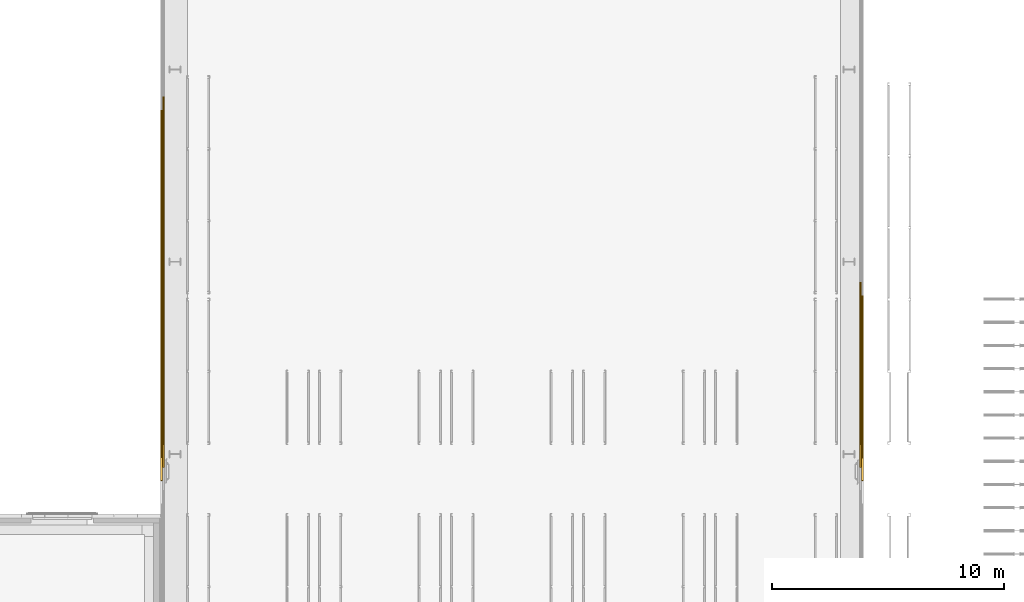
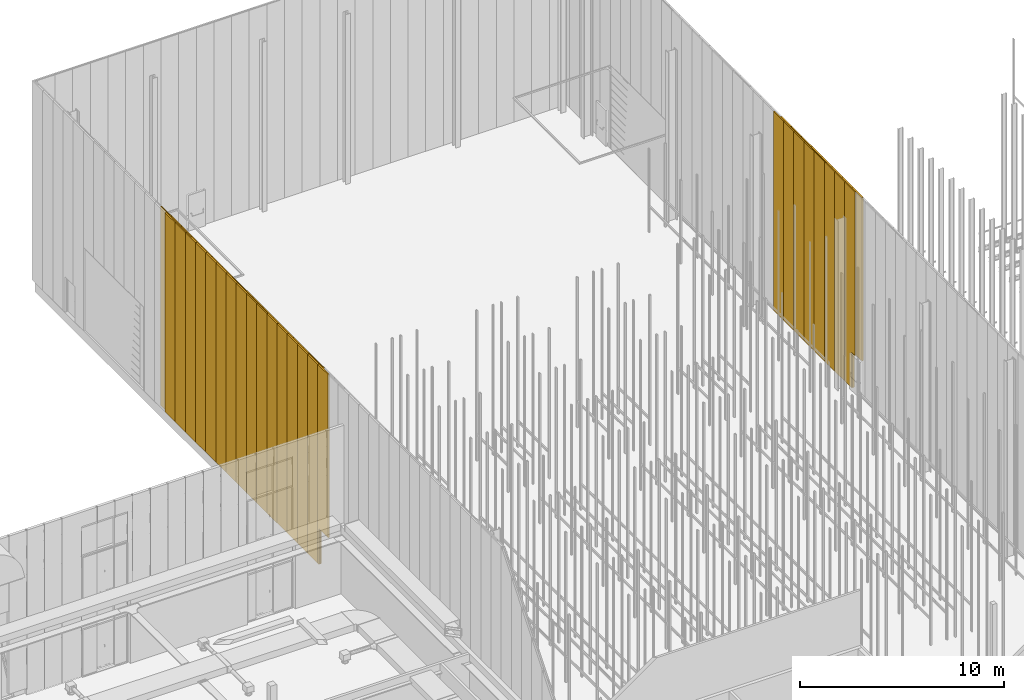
# One storey, part 245 of 302: 48 curtain walls, 5 openings, 4 elements without a shape of their own.
"""IFC2X3 building model written with IfcOpenShell, lengths in metres."""

from ifc_helpers import new_model, entity, si_unit, converted_unit, derived_unit, direction, frame, frame_2d, origin, origin_2d_with_axis, place, context, subcontext, project, spatial, rectangle, extrude, material, layer, layer_set, layer_usage, type_object, element, aggregate, save


model = new_model("IFC2X3")

# Units and contexts
model_context = context("Model", 3, precision=1e-05, world=origin(), true_north=direction((6.12303176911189e-17, 1.0)))
body_context = subcontext(model_context, "Body", "Model", "MODEL_VIEW")
ifc_project = project(units=[si_unit("LENGTHUNIT", "METRE"), si_unit("AREAUNIT", "SQUARE_METRE"), si_unit("VOLUMEUNIT", "CUBIC_METRE"), converted_unit("PLANEANGLEUNIT", "DEGREE", entity("IfcRatioMeasure", 0.0174532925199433), si_unit("PLANEANGLEUNIT", "RADIAN"), dimensions=[0, 0, 0, 0, 0, 0, 0]), si_unit("MASSUNIT", "GRAM", prefix="KILO"), derived_unit("MASSDENSITYUNIT", [(si_unit("MASSUNIT", "GRAM", prefix="KILO"), 1), (si_unit("LENGTHUNIT", "METRE"), -3)]), derived_unit("MOMENTOFINERTIAUNIT", [(si_unit("LENGTHUNIT", "METRE"), 4)]), si_unit("TIMEUNIT", "SECOND"), si_unit("FREQUENCYUNIT", "HERTZ"), si_unit("THERMODYNAMICTEMPERATUREUNIT", "DEGREE_CELSIUS"), derived_unit("THERMALTRANSMITTANCEUNIT", [(si_unit("MASSUNIT", "GRAM", prefix="KILO"), 1), (si_unit("THERMODYNAMICTEMPERATUREUNIT", "KELVIN"), -1), (si_unit("TIMEUNIT", "SECOND"), -3)]), derived_unit("VOLUMETRICFLOWRATEUNIT", [(si_unit("LENGTHUNIT", "METRE"), 3), (si_unit("TIMEUNIT", "SECOND"), -1)]), si_unit("ELECTRICCURRENTUNIT", "AMPERE"), si_unit("ELECTRICVOLTAGEUNIT", "VOLT"), si_unit("POWERUNIT", "WATT"), si_unit("FORCEUNIT", "NEWTON", prefix="KILO"), si_unit("ILLUMINANCEUNIT", "LUX"), si_unit("LUMINOUSFLUXUNIT", "LUMEN"), si_unit("LUMINOUSINTENSITYUNIT", "CANDELA"), derived_unit("USERDEFINED", [(si_unit("MASSUNIT", "GRAM", prefix="KILO"), -1), (si_unit("LENGTHUNIT", "METRE"), -2), (si_unit("TIMEUNIT", "SECOND"), 3), (si_unit("LUMINOUSFLUXUNIT", "LUMEN"), 1)]), derived_unit("LINEARVELOCITYUNIT", [(si_unit("LENGTHUNIT", "METRE"), 1), (si_unit("TIMEUNIT", "SECOND"), -1)]), si_unit("PRESSUREUNIT", "PASCAL"), derived_unit("USERDEFINED", [(si_unit("LENGTHUNIT", "METRE"), -2), (si_unit("MASSUNIT", "GRAM", prefix="KILO"), 1), (si_unit("TIMEUNIT", "SECOND"), -2)]), derived_unit("LINEARFORCEUNIT", [(si_unit("MASSUNIT", "GRAM", prefix="KILO"), 1), (si_unit("LENGTHUNIT", "METRE"), 1), (si_unit("TIMEUNIT", "SECOND"), -2), (si_unit("LENGTHUNIT", "METRE"), -1)]), derived_unit("PLANARFORCEUNIT", [(si_unit("MASSUNIT", "GRAM", prefix="KILO"), 1), (si_unit("LENGTHUNIT", "METRE"), 1), (si_unit("TIMEUNIT", "SECOND"), -2), (si_unit("LENGTHUNIT", "METRE"), -2)])], contexts=[model_context])

# Site, building, storey
site_placement = place(None, origin())
site = spatial("IfcSite", under=ifc_project, at=site_placement, Name="Default", CompositionType="ELEMENT")
building_placement = place(site_placement, origin())
building = spatial("IfcBuilding", under=site, at=building_placement, CompositionType="ELEMENT")
storey_placement = place(building_placement, frame((0.0, 0.0, -1.3)))
storey = spatial("IfcBuildingStorey", under=building, at=storey_placement, Name="00_EG", CompositionType="ELEMENT", Elevation=-1.3)

# Curtain walls, opening
curtain_wall_type_1 = type_object("IfcCurtainWallType", PredefinedType="NOTDEFINED")
curtain_wall_1_placement = place(storey_placement, frame((0.0, 0.0, 1.3)))
curtain_wall_1 = element("IfcCurtainWall", 1, at=curtain_wall_1_placement, inside=storey, type_object=curtain_wall_type_1)
ifc_material_1 = material(Name="Prepainted_Steel-ArcelorMittal_Construction_HAIRULTRA-35-CORAL-4309-[RAL_3000]")
ifc_layer_1 = layer(ifc_material_1, 0.01)
ifc_material_2 = material(Name="ArcelorMittal-MineralWool")
ifc_layer_2 = layer(ifc_material_2, 0.06)
ifc_layer_3 = layer(ifc_material_1, 0.01)
ifc_layer_set_1 = layer_set([ifc_layer_1, ifc_layer_2, ifc_layer_3], Name="Fassade:Sandwichpaneele Gebäude B 80mm")
ifc_layer_usage_1 = layer_usage(ifc_layer_set_1, "AXIS2", "NEGATIVE", 0.04)
curtain_wall_type_2 = type_object("IfcCurtainWallType", Name="Basiswand:Sandwichpaneele d = 8cm aussen", PredefinedType="NOTDEFINED", material=ifc_layer_set_1)
curtain_wall_2_placement = place(storey_placement, frame((-207.570111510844, 63.1680889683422, 1.27), z_axis=(0.0, 0.0, 1.0), x_axis=(0.0, -1.0, 0.0)))
curtain_wall_2 = element("IfcCurtainWall", 2, at=curtain_wall_2_placement, type_object=curtain_wall_type_2, material=ifc_layer_usage_1, Name="Basiswand:Sandwichpaneele d = 8cm aussen", ObjectType="Basiswand:Sandwichpaneele d = 8cm aussen", context=body_context, shape_type="SweptSolid", body=[
    extrude(rectangle(XDim=1.00000000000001, YDim=0.0799999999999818, at=frame_2d((0.500000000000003, 0.0), x_axis=(-1.0, 0.0))), origin(), (0.0, 0.0, 1.0), 11.9314),
])
ifc_layer_usage_2 = layer_usage(ifc_layer_set_1, "AXIS2", "NEGATIVE", 0.04)
curtain_wall_3_placement = place(storey_placement, frame((-207.570111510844, 62.1680889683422, 1.27), z_axis=(0.0, 0.0, 1.0), x_axis=(0.0, -1.0, 0.0)))
curtain_wall_3 = element("IfcCurtainWall", 3, at=curtain_wall_3_placement, type_object=curtain_wall_type_2, material=ifc_layer_usage_2, Name="Basiswand:Sandwichpaneele d = 8cm aussen", ObjectType="Basiswand:Sandwichpaneele d = 8cm aussen", context=body_context, shape_type="SweptSolid", body=[
    extrude(rectangle(XDim=0.999999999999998, YDim=0.0799999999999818, at=frame_2d((0.499999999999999, 0.0), x_axis=(-1.0, 0.0))), origin(), (0.0, 0.0, 1.0), 11.9314),
])
ifc_layer_usage_3 = layer_usage(ifc_layer_set_1, "AXIS2", "NEGATIVE", 0.04)
curtain_wall_4_placement = place(storey_placement, frame((-207.570111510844, 61.1680889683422, 1.27), z_axis=(0.0, 0.0, 1.0), x_axis=(0.0, -1.0, 0.0)))
curtain_wall_4 = element("IfcCurtainWall", 4, at=curtain_wall_4_placement, type_object=curtain_wall_type_2, material=ifc_layer_usage_3, Name="Basiswand:Sandwichpaneele d = 8cm aussen", ObjectType="Basiswand:Sandwichpaneele d = 8cm aussen", context=body_context, shape_type="SweptSolid", body=[
    extrude(rectangle(XDim=1.00000000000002, YDim=0.0799999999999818, at=frame_2d((0.500000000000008, 0.0), x_axis=(-1.0, 0.0))), origin(), (0.0, 0.0, 1.0), 11.9314),
])
ifc_layer_usage_4 = layer_usage(ifc_layer_set_1, "AXIS2", "NEGATIVE", 0.04)
curtain_wall_5_placement = place(storey_placement, frame((-207.570111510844, 60.1680889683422, 1.27), z_axis=(0.0, 0.0, 1.0), x_axis=(0.0, -1.0, 0.0)))
curtain_wall_5 = element("IfcCurtainWall", 5, at=curtain_wall_5_placement, type_object=curtain_wall_type_2, material=ifc_layer_usage_4, Name="Basiswand:Sandwichpaneele d = 8cm aussen", ObjectType="Basiswand:Sandwichpaneele d = 8cm aussen", context=body_context, shape_type="SweptSolid", body=[
    extrude(rectangle(XDim=0.999999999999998, YDim=0.0799999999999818, at=frame_2d((0.499999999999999, 0.0), x_axis=(-1.0, 0.0))), origin(), (0.0, 0.0, 1.0), 11.9314),
])
ifc_layer_usage_5 = layer_usage(ifc_layer_set_1, "AXIS2", "NEGATIVE", 0.04)
curtain_wall_6_placement = place(storey_placement, frame((-207.570111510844, 59.1680889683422, 1.27), z_axis=(0.0, 0.0, 1.0), x_axis=(0.0, -1.0, 0.0)))
curtain_wall_6 = element("IfcCurtainWall", 6, at=curtain_wall_6_placement, type_object=curtain_wall_type_2, material=ifc_layer_usage_5, Name="Basiswand:Sandwichpaneele d = 8cm aussen", ObjectType="Basiswand:Sandwichpaneele d = 8cm aussen", context=body_context, shape_type="SweptSolid", body=[
    extrude(rectangle(XDim=0.999999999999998, YDim=0.0799999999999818, at=frame_2d((0.499999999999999, 0.0), x_axis=(-1.0, 0.0))), origin(), (0.0, 0.0, 1.0), 11.9314),
])
ifc_layer_usage_6 = layer_usage(ifc_layer_set_1, "AXIS2", "NEGATIVE", 0.04)
curtain_wall_7_placement = place(storey_placement, frame((-207.570111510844, 58.1680889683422, 1.27), z_axis=(0.0, 0.0, 1.0), x_axis=(0.0, -1.0, 0.0)))
curtain_wall_7 = element("IfcCurtainWall", 7, at=curtain_wall_7_placement, type_object=curtain_wall_type_2, material=ifc_layer_usage_6, Name="Basiswand:Sandwichpaneele d = 8cm aussen", ObjectType="Basiswand:Sandwichpaneele d = 8cm aussen", context=body_context, shape_type="SweptSolid", body=[
    extrude(rectangle(XDim=1.00000000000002, YDim=0.0799999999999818, at=frame_2d((0.500000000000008, 0.0), x_axis=(-1.0, 0.0))), origin(), (0.0, 0.0, 1.0), 11.9314),
])
ifc_layer_usage_7 = layer_usage(ifc_layer_set_1, "AXIS2", "NEGATIVE", 0.04)
curtain_wall_8_placement = place(storey_placement, frame((-207.570111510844, 57.1680889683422, 1.27), z_axis=(0.0, 0.0, 1.0), x_axis=(0.0, -1.0, 0.0)))
curtain_wall_8 = element("IfcCurtainWall", 8, at=curtain_wall_8_placement, type_object=curtain_wall_type_2, material=ifc_layer_usage_7, Name="Basiswand:Sandwichpaneele d = 8cm aussen", ObjectType="Basiswand:Sandwichpaneele d = 8cm aussen", context=body_context, shape_type="SweptSolid", body=[
    extrude(rectangle(XDim=0.999999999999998, YDim=0.0799999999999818, at=frame_2d((0.499999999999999, 0.0), x_axis=(-1.0, 0.0))), origin(), (0.0, 0.0, 1.0), 11.9314),
])
ifc_layer_usage_8 = layer_usage(ifc_layer_set_1, "AXIS2", "NEGATIVE", 0.04)
curtain_wall_9_placement = place(storey_placement, frame((-207.570111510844, 56.1680889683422, 1.27), z_axis=(0.0, 0.0, 1.0), x_axis=(0.0, -1.0, 0.0)))
curtain_wall_9 = element("IfcCurtainWall", 9, at=curtain_wall_9_placement, type_object=curtain_wall_type_2, material=ifc_layer_usage_8, Name="Basiswand:Sandwichpaneele d = 8cm aussen", ObjectType="Basiswand:Sandwichpaneele d = 8cm aussen", context=body_context, shape_type="SweptSolid", body=[
    extrude(rectangle(XDim=0.999999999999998, YDim=0.0799999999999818, at=frame_2d((0.499999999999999, 0.0), x_axis=(-1.0, 0.0))), origin(), (0.0, 0.0, 1.0), 11.9314),
])
ifc_layer_usage_9 = layer_usage(ifc_layer_set_1, "AXIS2", "NEGATIVE", 0.04)
curtain_wall_10_placement = place(storey_placement, frame((-207.570111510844, 55.1680889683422, 1.27), z_axis=(0.0, 0.0, 1.0), x_axis=(0.0, -1.0, 0.0)))
curtain_wall_10 = element("IfcCurtainWall", 10, at=curtain_wall_10_placement, type_object=curtain_wall_type_2, material=ifc_layer_usage_9, Name="Basiswand:Sandwichpaneele d = 8cm aussen", ObjectType="Basiswand:Sandwichpaneele d = 8cm aussen", context=body_context, shape_type="SweptSolid", body=[
    extrude(rectangle(XDim=0.999999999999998, YDim=0.0799999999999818, at=frame_2d((0.499999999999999, 0.0), x_axis=(-1.0, 0.0))), origin(), (0.0, 0.0, 1.0), 11.9314),
])
ifc_layer_usage_10 = layer_usage(ifc_layer_set_1, "AXIS2", "NEGATIVE", 0.04)
curtain_wall_11_placement = place(storey_placement, frame((-207.570111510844, 54.1680889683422, 1.27), z_axis=(0.0, 0.0, 1.0), x_axis=(0.0, -1.0, 0.0)))
curtain_wall_11 = element("IfcCurtainWall", 11, at=curtain_wall_11_placement, type_object=curtain_wall_type_2, material=ifc_layer_usage_10, Name="Basiswand:Sandwichpaneele d = 8cm aussen", ObjectType="Basiswand:Sandwichpaneele d = 8cm aussen", context=body_context, shape_type="SweptSolid", body=[
    extrude(rectangle(XDim=0.999999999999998, YDim=0.0799999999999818, at=frame_2d((0.499999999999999, 0.0), x_axis=(-1.0, 0.0))), origin(), (0.0, 0.0, 1.0), 11.9314),
])
ifc_layer_usage_11 = layer_usage(ifc_layer_set_1, "AXIS2", "NEGATIVE", 0.04)
curtain_wall_12_placement = place(storey_placement, frame((-207.570111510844, 53.1680889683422, 1.27), z_axis=(0.0, 0.0, 1.0), x_axis=(0.0, -1.0, 0.0)))
curtain_wall_12 = element("IfcCurtainWall", 12, at=curtain_wall_12_placement, type_object=curtain_wall_type_2, material=ifc_layer_usage_11, Name="Basiswand:Sandwichpaneele d = 8cm aussen", ObjectType="Basiswand:Sandwichpaneele d = 8cm aussen", context=body_context, shape_type="SweptSolid", body=[
    extrude(rectangle(XDim=0.999999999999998, YDim=0.0799999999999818, at=frame_2d((0.499999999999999, 0.0), x_axis=(-1.0, 0.0))), origin(), (0.0, 0.0, 1.0), 11.9314),
])
ifc_layer_usage_12 = layer_usage(ifc_layer_set_1, "AXIS2", "NEGATIVE", 0.04)
curtain_wall_13_placement = place(storey_placement, frame((-207.570111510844, 52.1680889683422, 1.27), z_axis=(0.0, 0.0, 1.0), x_axis=(0.0, -1.0, 0.0)))
curtain_wall_13 = element("IfcCurtainWall", 13, at=curtain_wall_13_placement, type_object=curtain_wall_type_2, material=ifc_layer_usage_12, Name="Basiswand:Sandwichpaneele d = 8cm aussen", ObjectType="Basiswand:Sandwichpaneele d = 8cm aussen", context=body_context, shape_type="SweptSolid", body=[
    extrude(rectangle(XDim=0.999999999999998, YDim=0.0799999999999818, at=frame_2d((0.499999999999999, 0.0), x_axis=(-1.0, 0.0))), origin(), (0.0, 0.0, 1.0), 11.9314),
])
ifc_layer_usage_13 = layer_usage(ifc_layer_set_1, "AXIS2", "NEGATIVE", 0.04)
curtain_wall_14_placement = place(storey_placement, frame((-207.570111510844, 51.1680889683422, 1.27), z_axis=(0.0, 0.0, 1.0), x_axis=(0.0, -1.0, 0.0)))
curtain_wall_14 = element("IfcCurtainWall", 14, at=curtain_wall_14_placement, type_object=curtain_wall_type_2, material=ifc_layer_usage_13, Name="Basiswand:Sandwichpaneele d = 8cm aussen", ObjectType="Basiswand:Sandwichpaneele d = 8cm aussen", context=body_context, shape_type="SweptSolid", body=[
    extrude(rectangle(XDim=0.999999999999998, YDim=0.0799999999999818, at=frame_2d((0.499999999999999, 0.0), x_axis=(-1.0, 0.0))), origin(), (0.0, 0.0, 1.0), 11.9314),
])
ifc_layer_usage_14 = layer_usage(ifc_layer_set_1, "AXIS2", "NEGATIVE", 0.04)
curtain_wall_15_placement = place(storey_placement, frame((-207.570111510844, 50.1680889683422, 1.27), z_axis=(0.0, 0.0, 1.0), x_axis=(0.0, -1.0, 0.0)))
curtain_wall_15 = element("IfcCurtainWall", 15, at=curtain_wall_15_placement, type_object=curtain_wall_type_2, material=ifc_layer_usage_14, Name="Basiswand:Sandwichpaneele d = 8cm aussen", ObjectType="Basiswand:Sandwichpaneele d = 8cm aussen", context=body_context, shape_type="SweptSolid", body=[
    extrude(rectangle(XDim=0.999999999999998, YDim=0.0799999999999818, at=frame_2d((0.499999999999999, 0.0), x_axis=(-1.0, 0.0))), origin(), (0.0, 0.0, 1.0), 11.9314),
])
ifc_layer_usage_15 = layer_usage(ifc_layer_set_1, "AXIS2", "NEGATIVE", 0.04)
curtain_wall_16_placement = place(storey_placement, frame((-207.570111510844, 49.1680889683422, 1.27), z_axis=(0.0, 0.0, 1.0), x_axis=(0.0, -1.0, 0.0)))
curtain_wall_16 = element("IfcCurtainWall", 16, at=curtain_wall_16_placement, type_object=curtain_wall_type_2, material=ifc_layer_usage_15, Name="Basiswand:Sandwichpaneele d = 8cm aussen", ObjectType="Basiswand:Sandwichpaneele d = 8cm aussen", context=body_context, shape_type="SweptSolid", body=[
    extrude(rectangle(XDim=0.999999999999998, YDim=0.0799999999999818, at=frame_2d((0.499999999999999, 0.0), x_axis=(-1.0, 0.0))), origin(), (0.0, 0.0, 1.0), 11.9314),
])
ifc_layer_usage_16 = layer_usage(ifc_layer_set_1, "AXIS2", "NEGATIVE", 0.04)
curtain_wall_17_placement = place(storey_placement, frame((-207.570111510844, 48.1680889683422, 1.27), z_axis=(0.0, 0.0, 1.0), x_axis=(0.0, -1.0, 0.0)))
curtain_wall_17 = element("IfcCurtainWall", 17, at=curtain_wall_17_placement, type_object=curtain_wall_type_2, material=ifc_layer_usage_16, Name="Basiswand:Sandwichpaneele d = 8cm aussen", ObjectType="Basiswand:Sandwichpaneele d = 8cm aussen", context=body_context, shape_type="SweptSolid", body=[
    extrude(rectangle(XDim=0.999999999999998, YDim=0.0799999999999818, at=frame_2d((0.499999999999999, 0.0), x_axis=(-1.0, 0.0))), origin(), (0.0, 0.0, 1.0), 11.9314),
])
opening_1_placement = place(curtain_wall_17_placement, origin())
opening_1 = element("IfcOpeningElement", 18, at=opening_1_placement, cuts=curtain_wall_17, Name="Basiswand:Sandwichpaneele d = 8cm aussen", ObjectType="Opening", context=body_context, shape_type="SweptSolid", body=[
    extrude(rectangle(XDim=2.16999999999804, YDim=0.979999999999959, at=frame_2d((-5.55111512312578e-16, 2.60069743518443e-14), x_axis=(1.0, 0.0))), frame((0.589999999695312, -0.0400000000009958, 1.054999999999), z_axis=(0.0, 1.0, 0.0), x_axis=(0.0, 0.0, -1.0)), (0.0, 0.0, 1.0), 0.169999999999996),
])
aggregate(curtain_wall_1, [curtain_wall_2, curtain_wall_3, curtain_wall_4, curtain_wall_5, curtain_wall_6, curtain_wall_7, curtain_wall_8, curtain_wall_9, curtain_wall_10, curtain_wall_11, curtain_wall_12, curtain_wall_13, curtain_wall_14, curtain_wall_15, curtain_wall_16, curtain_wall_17, opening_1])

# Curtain walls, openings
curtain_wall_18_placement = place(storey_placement, frame((0.0, 0.0, 1.3)))
curtain_wall_18 = element("IfcCurtainWall", 19, at=curtain_wall_18_placement, inside=storey, type_object=curtain_wall_type_1)
ifc_layer_usage_17 = layer_usage(ifc_layer_set_1, "AXIS2", "POSITIVE", -0.04)
curtain_wall_19_placement = place(storey_placement, frame((-177.310111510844, 55.1680889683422, 1.27), z_axis=(0.0, 0.0, 1.0), x_axis=(0.0, -1.0, 0.0)))
curtain_wall_19 = element("IfcCurtainWall", 20, at=curtain_wall_19_placement, type_object=curtain_wall_type_2, material=ifc_layer_usage_17, Name="Basiswand:Sandwichpaneele d = 8cm aussen", ObjectType="Basiswand:Sandwichpaneele d = 8cm aussen", context=body_context, shape_type="SweptSolid", body=[
    extrude(rectangle(XDim=0.999999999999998, YDim=0.0799999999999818, at=frame_2d((0.499999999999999, 0.0), x_axis=(-1.0, 0.0))), origin(), (0.0, 0.0, 1.0), 11.9314),
])
ifc_layer_usage_18 = layer_usage(ifc_layer_set_1, "AXIS2", "POSITIVE", -0.04)
curtain_wall_20_placement = place(storey_placement, frame((-177.310111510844, 54.1680889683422, 1.27), z_axis=(0.0, 0.0, 1.0), x_axis=(0.0, -1.0, 0.0)))
curtain_wall_20 = element("IfcCurtainWall", 21, at=curtain_wall_20_placement, type_object=curtain_wall_type_2, material=ifc_layer_usage_18, Name="Basiswand:Sandwichpaneele d = 8cm aussen", ObjectType="Basiswand:Sandwichpaneele d = 8cm aussen", context=body_context, shape_type="SweptSolid", body=[
    extrude(rectangle(XDim=0.999999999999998, YDim=0.0799999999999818, at=frame_2d((0.499999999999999, 0.0), x_axis=(-1.0, 0.0))), origin(), (0.0, 0.0, 1.0), 11.9314),
])
ifc_layer_usage_19 = layer_usage(ifc_layer_set_1, "AXIS2", "POSITIVE", -0.04)
curtain_wall_21_placement = place(storey_placement, frame((-177.310111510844, 53.1680889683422, 1.27), z_axis=(0.0, 0.0, 1.0), x_axis=(0.0, -1.0, 0.0)))
curtain_wall_21 = element("IfcCurtainWall", 22, at=curtain_wall_21_placement, type_object=curtain_wall_type_2, material=ifc_layer_usage_19, Name="Basiswand:Sandwichpaneele d = 8cm aussen", ObjectType="Basiswand:Sandwichpaneele d = 8cm aussen", context=body_context, shape_type="SweptSolid", body=[
    extrude(rectangle(XDim=0.999999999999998, YDim=0.0799999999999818, at=frame_2d((0.499999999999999, 0.0), x_axis=(-1.0, 0.0))), origin(), (0.0, 0.0, 1.0), 11.9314),
])
ifc_layer_usage_20 = layer_usage(ifc_layer_set_1, "AXIS2", "POSITIVE", -0.04)
curtain_wall_22_placement = place(storey_placement, frame((-177.310111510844, 52.1680889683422, 1.27), z_axis=(0.0, 0.0, 1.0), x_axis=(0.0, -1.0, 0.0)))
curtain_wall_22 = element("IfcCurtainWall", 23, at=curtain_wall_22_placement, type_object=curtain_wall_type_2, material=ifc_layer_usage_20, Name="Basiswand:Sandwichpaneele d = 8cm aussen", ObjectType="Basiswand:Sandwichpaneele d = 8cm aussen", context=body_context, shape_type="SweptSolid", body=[
    extrude(rectangle(XDim=0.999999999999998, YDim=0.0799999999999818, at=frame_2d((0.499999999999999, 0.0), x_axis=(-1.0, 0.0))), origin(), (0.0, 0.0, 1.0), 11.9314),
])
ifc_layer_usage_21 = layer_usage(ifc_layer_set_1, "AXIS2", "POSITIVE", -0.04)
curtain_wall_23_placement = place(storey_placement, frame((-177.310111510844, 51.1680889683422, 1.27), z_axis=(0.0, 0.0, 1.0), x_axis=(0.0, -1.0, 0.0)))
curtain_wall_23 = element("IfcCurtainWall", 24, at=curtain_wall_23_placement, type_object=curtain_wall_type_2, material=ifc_layer_usage_21, Name="Basiswand:Sandwichpaneele d = 8cm aussen", ObjectType="Basiswand:Sandwichpaneele d = 8cm aussen", context=body_context, shape_type="SweptSolid", body=[
    extrude(rectangle(XDim=0.999999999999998, YDim=0.0799999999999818, at=frame_2d((0.499999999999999, 0.0), x_axis=(-1.0, 0.0))), origin(), (0.0, 0.0, 1.0), 11.9314),
])
ifc_layer_usage_22 = layer_usage(ifc_layer_set_1, "AXIS2", "POSITIVE", -0.04)
curtain_wall_24_placement = place(storey_placement, frame((-177.310111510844, 50.1680889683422, 1.27), z_axis=(0.0, 0.0, 1.0), x_axis=(0.0, -1.0, 0.0)))
curtain_wall_24 = element("IfcCurtainWall", 25, at=curtain_wall_24_placement, type_object=curtain_wall_type_2, material=ifc_layer_usage_22, Name="Basiswand:Sandwichpaneele d = 8cm aussen", ObjectType="Basiswand:Sandwichpaneele d = 8cm aussen", context=body_context, shape_type="SweptSolid", body=[
    extrude(rectangle(XDim=0.999999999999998, YDim=0.0799999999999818, at=frame_2d((0.499999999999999, 0.0), x_axis=(-1.0, 0.0))), origin(), (0.0, 0.0, 1.0), 11.9314),
])
ifc_layer_usage_23 = layer_usage(ifc_layer_set_1, "AXIS2", "POSITIVE", -0.04)
curtain_wall_25_placement = place(storey_placement, frame((-177.310111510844, 49.1680889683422, 1.27), z_axis=(0.0, 0.0, 1.0), x_axis=(0.0, -1.0, 0.0)))
curtain_wall_25 = element("IfcCurtainWall", 26, at=curtain_wall_25_placement, type_object=curtain_wall_type_2, material=ifc_layer_usage_23, Name="Basiswand:Sandwichpaneele d = 8cm aussen", ObjectType="Basiswand:Sandwichpaneele d = 8cm aussen", context=body_context, shape_type="SweptSolid", body=[
    extrude(rectangle(XDim=0.999999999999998, YDim=0.0799999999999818, at=frame_2d((0.499999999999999, 0.0), x_axis=(-1.0, 0.0))), origin(), (0.0, 0.0, 1.0), 11.9314),
])
opening_2_placement = place(curtain_wall_25_placement, origin())
opening_2 = element("IfcOpeningElement", 27, at=opening_2_placement, cuts=curtain_wall_25, Name="Basiswand:Sandwichpaneele d = 8cm aussen", ObjectType="Opening", context=body_context, shape_type="SweptSolid", body=[
    extrude(rectangle(XDim=2.16999999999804, YDim=0.980000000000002, at=origin_2d_with_axis()), frame((1.58999999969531, -0.129999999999, 1.054999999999), z_axis=(0.0, 1.0, 0.0), x_axis=(0.0, 0.0, -1.0)), (0.0, 0.0, 1.0), 0.169999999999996),
])
ifc_layer_usage_24 = layer_usage(ifc_layer_set_1, "AXIS2", "POSITIVE", -0.04)
curtain_wall_26_placement = place(storey_placement, frame((-177.310111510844, 48.1680889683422, 1.27), z_axis=(0.0, 0.0, 1.0), x_axis=(0.0, -1.0, 0.0)))
curtain_wall_26 = element("IfcCurtainWall", 28, at=curtain_wall_26_placement, type_object=curtain_wall_type_2, material=ifc_layer_usage_24, Name="Basiswand:Sandwichpaneele d = 8cm aussen", ObjectType="Basiswand:Sandwichpaneele d = 8cm aussen", context=body_context, shape_type="SweptSolid", body=[
    extrude(rectangle(XDim=0.999999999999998, YDim=0.0799999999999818, at=frame_2d((0.499999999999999, 0.0), x_axis=(-1.0, 0.0))), origin(), (0.0, 0.0, 1.0), 11.9314),
])
opening_3_placement = place(curtain_wall_26_placement, origin())
opening_3 = element("IfcOpeningElement", 29, at=opening_3_placement, cuts=curtain_wall_26, Name="Basiswand:Sandwichpaneele d = 8cm aussen", ObjectType="Opening", context=body_context, shape_type="SweptSolid", body=[
    extrude(rectangle(XDim=2.16999999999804, YDim=0.980000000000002, at=origin_2d_with_axis()), frame((0.589999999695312, -0.129999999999, 1.054999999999), z_axis=(0.0, 1.0, 0.0), x_axis=(0.0, 0.0, -1.0)), (0.0, 0.0, 1.0), 0.169999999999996),
])
aggregate(curtain_wall_18, [curtain_wall_19, curtain_wall_20, curtain_wall_21, curtain_wall_22, curtain_wall_23, curtain_wall_24, curtain_wall_25, opening_2, curtain_wall_26, opening_3])

# Curtain walls, opening
curtain_wall_type_3 = type_object("IfcCurtainWallType", PredefinedType="NOTDEFINED")
curtain_wall_27_placement = place(storey_placement, frame((0.0, 0.0, 1.3)))
curtain_wall_27 = element("IfcCurtainWall", 30, at=curtain_wall_27_placement, inside=storey, type_object=curtain_wall_type_3)
ifc_layer_4 = layer(ifc_material_1, 0.01)
ifc_layer_5 = layer(ifc_material_2, 0.04)
ifc_layer_6 = layer(ifc_material_1, 0.01)
ifc_layer_set_2 = layer_set([ifc_layer_4, ifc_layer_5, ifc_layer_6], Name="Fassade:Sandwichpaneele Gebäude B 60mm")
ifc_layer_usage_25 = layer_usage(ifc_layer_set_2, "AXIS2", "NEGATIVE", 0.03)
curtain_wall_type_4 = type_object("IfcCurtainWallType", Name="Basiswand:Sandwichpaneele d = 6cm aussen", PredefinedType="NOTDEFINED", material=ifc_layer_set_2)
curtain_wall_28_placement = place(storey_placement, frame((-207.490111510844, 47.7480889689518, 1.27), z_axis=(0.0, 0.0, 1.0), x_axis=(0.0, 1.0, 0.0)))
curtain_wall_28 = element("IfcCurtainWall", 31, at=curtain_wall_28_placement, type_object=curtain_wall_type_4, material=ifc_layer_usage_25, Name="Basiswand:Sandwichpaneele d = 6cm aussen", ObjectType="Basiswand:Sandwichpaneele d = 6cm aussen", context=body_context, shape_type="SweptSolid", body=[
    extrude(rectangle(XDim=0.999999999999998, YDim=0.0599999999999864, at=frame_2d((0.499999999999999, 0.0), x_axis=(-1.0, 0.0))), origin(), (0.0, 0.0, 1.0), 11.9314),
])
opening_4_placement = place(curtain_wall_28_placement, origin())
opening_4 = element("IfcOpeningElement", 32, at=opening_4_placement, cuts=curtain_wall_28, Name="Basiswand:Sandwichpaneele d = 6cm aussen", ObjectType="Opening", context=body_context, shape_type="SweptSolid", body=[
    extrude(rectangle(XDim=2.16999999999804, YDim=0.980000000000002, at=origin_2d_with_axis()), frame((-0.170000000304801, -0.0499999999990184, 1.054999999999), z_axis=(0.0, 1.0, 0.0), x_axis=(0.0, 0.0, -1.0)), (0.0, 0.0, 1.0), 0.169999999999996),
])
ifc_layer_usage_26 = layer_usage(ifc_layer_set_2, "AXIS2", "NEGATIVE", 0.03)
curtain_wall_29_placement = place(storey_placement, frame((-207.490111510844, 48.7480889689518, 1.27), z_axis=(0.0, 0.0, 1.0), x_axis=(0.0, 1.0, 0.0)))
curtain_wall_29 = element("IfcCurtainWall", 33, at=curtain_wall_29_placement, type_object=curtain_wall_type_4, material=ifc_layer_usage_26, Name="Basiswand:Sandwichpaneele d = 6cm aussen", ObjectType="Basiswand:Sandwichpaneele d = 6cm aussen", context=body_context, shape_type="SweptSolid", body=[
    extrude(rectangle(XDim=0.999999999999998, YDim=0.0599999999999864, at=frame_2d((0.499999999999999, 0.0), x_axis=(-1.0, 0.0))), origin(), (0.0, 0.0, 1.0), 11.9314),
])
ifc_layer_usage_27 = layer_usage(ifc_layer_set_2, "AXIS2", "NEGATIVE", 0.03)
curtain_wall_30_placement = place(storey_placement, frame((-207.490111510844, 49.7480889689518, 1.27), z_axis=(0.0, 0.0, 1.0), x_axis=(0.0, 1.0, 0.0)))
curtain_wall_30 = element("IfcCurtainWall", 34, at=curtain_wall_30_placement, type_object=curtain_wall_type_4, material=ifc_layer_usage_27, Name="Basiswand:Sandwichpaneele d = 6cm aussen", ObjectType="Basiswand:Sandwichpaneele d = 6cm aussen", context=body_context, shape_type="SweptSolid", body=[
    extrude(rectangle(XDim=0.999999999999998, YDim=0.0599999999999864, at=frame_2d((0.499999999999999, 0.0), x_axis=(-1.0, 0.0))), origin(), (0.0, 0.0, 1.0), 11.9314),
])
ifc_layer_usage_28 = layer_usage(ifc_layer_set_2, "AXIS2", "NEGATIVE", 0.03)
curtain_wall_31_placement = place(storey_placement, frame((-207.490111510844, 50.7480889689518, 1.27), z_axis=(0.0, 0.0, 1.0), x_axis=(0.0, 1.0, 0.0)))
curtain_wall_31 = element("IfcCurtainWall", 35, at=curtain_wall_31_placement, type_object=curtain_wall_type_4, material=ifc_layer_usage_28, Name="Basiswand:Sandwichpaneele d = 6cm aussen", ObjectType="Basiswand:Sandwichpaneele d = 6cm aussen", context=body_context, shape_type="SweptSolid", body=[
    extrude(rectangle(XDim=0.999999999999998, YDim=0.0599999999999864, at=frame_2d((0.499999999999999, 0.0), x_axis=(-1.0, 0.0))), origin(), (0.0, 0.0, 1.0), 11.9314),
])
ifc_layer_usage_29 = layer_usage(ifc_layer_set_2, "AXIS2", "NEGATIVE", 0.03)
curtain_wall_32_placement = place(storey_placement, frame((-207.490111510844, 51.7480889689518, 1.27), z_axis=(0.0, 0.0, 1.0), x_axis=(0.0, 1.0, 0.0)))
curtain_wall_32 = element("IfcCurtainWall", 36, at=curtain_wall_32_placement, type_object=curtain_wall_type_4, material=ifc_layer_usage_29, Name="Basiswand:Sandwichpaneele d = 6cm aussen", ObjectType="Basiswand:Sandwichpaneele d = 6cm aussen", context=body_context, shape_type="SweptSolid", body=[
    extrude(rectangle(XDim=0.999999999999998, YDim=0.0599999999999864, at=frame_2d((0.499999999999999, 0.0), x_axis=(-1.0, 0.0))), origin(), (0.0, 0.0, 1.0), 11.9314),
])
ifc_layer_usage_30 = layer_usage(ifc_layer_set_2, "AXIS2", "NEGATIVE", 0.03)
curtain_wall_33_placement = place(storey_placement, frame((-207.490111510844, 52.7480889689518, 1.27), z_axis=(0.0, 0.0, 1.0), x_axis=(0.0, 1.0, 0.0)))
curtain_wall_33 = element("IfcCurtainWall", 37, at=curtain_wall_33_placement, type_object=curtain_wall_type_4, material=ifc_layer_usage_30, Name="Basiswand:Sandwichpaneele d = 6cm aussen", ObjectType="Basiswand:Sandwichpaneele d = 6cm aussen", context=body_context, shape_type="SweptSolid", body=[
    extrude(rectangle(XDim=0.999999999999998, YDim=0.0599999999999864, at=frame_2d((0.499999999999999, 0.0), x_axis=(-1.0, 0.0))), origin(), (0.0, 0.0, 1.0), 11.9314),
])
ifc_layer_usage_31 = layer_usage(ifc_layer_set_2, "AXIS2", "NEGATIVE", 0.03)
curtain_wall_34_placement = place(storey_placement, frame((-207.490111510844, 53.7480889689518, 1.27), z_axis=(0.0, 0.0, 1.0), x_axis=(0.0, 1.0, 0.0)))
curtain_wall_34 = element("IfcCurtainWall", 38, at=curtain_wall_34_placement, type_object=curtain_wall_type_4, material=ifc_layer_usage_31, Name="Basiswand:Sandwichpaneele d = 6cm aussen", ObjectType="Basiswand:Sandwichpaneele d = 6cm aussen", context=body_context, shape_type="SweptSolid", body=[
    extrude(rectangle(XDim=0.999999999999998, YDim=0.0599999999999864, at=frame_2d((0.499999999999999, 0.0), x_axis=(-1.0, 0.0))), origin(), (0.0, 0.0, 1.0), 11.9314),
])
ifc_layer_usage_32 = layer_usage(ifc_layer_set_2, "AXIS2", "NEGATIVE", 0.03)
curtain_wall_35_placement = place(storey_placement, frame((-207.490111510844, 54.7480889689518, 1.27), z_axis=(0.0, 0.0, 1.0), x_axis=(0.0, 1.0, 0.0)))
curtain_wall_35 = element("IfcCurtainWall", 39, at=curtain_wall_35_placement, type_object=curtain_wall_type_4, material=ifc_layer_usage_32, Name="Basiswand:Sandwichpaneele d = 6cm aussen", ObjectType="Basiswand:Sandwichpaneele d = 6cm aussen", context=body_context, shape_type="SweptSolid", body=[
    extrude(rectangle(XDim=0.999999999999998, YDim=0.0599999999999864, at=frame_2d((0.499999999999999, 0.0), x_axis=(-1.0, 0.0))), origin(), (0.0, 0.0, 1.0), 11.9314),
])
ifc_layer_usage_33 = layer_usage(ifc_layer_set_2, "AXIS2", "NEGATIVE", 0.03)
curtain_wall_36_placement = place(storey_placement, frame((-207.490111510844, 55.7480889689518, 1.27), z_axis=(0.0, 0.0, 1.0), x_axis=(0.0, 1.0, 0.0)))
curtain_wall_36 = element("IfcCurtainWall", 40, at=curtain_wall_36_placement, type_object=curtain_wall_type_4, material=ifc_layer_usage_33, Name="Basiswand:Sandwichpaneele d = 6cm aussen", ObjectType="Basiswand:Sandwichpaneele d = 6cm aussen", context=body_context, shape_type="SweptSolid", body=[
    extrude(rectangle(XDim=0.999999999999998, YDim=0.0599999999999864, at=frame_2d((0.499999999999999, 0.0), x_axis=(-1.0, 0.0))), origin(), (0.0, 0.0, 1.0), 11.9314),
])
ifc_layer_usage_34 = layer_usage(ifc_layer_set_2, "AXIS2", "NEGATIVE", 0.03)
curtain_wall_37_placement = place(storey_placement, frame((-207.490111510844, 56.7480889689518, 1.27), z_axis=(0.0, 0.0, 1.0), x_axis=(0.0, 1.0, 0.0)))
curtain_wall_37 = element("IfcCurtainWall", 41, at=curtain_wall_37_placement, type_object=curtain_wall_type_4, material=ifc_layer_usage_34, Name="Basiswand:Sandwichpaneele d = 6cm aussen", ObjectType="Basiswand:Sandwichpaneele d = 6cm aussen", context=body_context, shape_type="SweptSolid", body=[
    extrude(rectangle(XDim=0.999999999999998, YDim=0.0599999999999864, at=frame_2d((0.499999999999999, 0.0), x_axis=(-1.0, 0.0))), origin(), (0.0, 0.0, 1.0), 11.9314),
])
ifc_layer_usage_35 = layer_usage(ifc_layer_set_2, "AXIS2", "NEGATIVE", 0.03)
curtain_wall_38_placement = place(storey_placement, frame((-207.490111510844, 57.7480889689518, 1.27), z_axis=(0.0, 0.0, 1.0), x_axis=(0.0, 1.0, 0.0)))
curtain_wall_38 = element("IfcCurtainWall", 42, at=curtain_wall_38_placement, type_object=curtain_wall_type_4, material=ifc_layer_usage_35, Name="Basiswand:Sandwichpaneele d = 6cm aussen", ObjectType="Basiswand:Sandwichpaneele d = 6cm aussen", context=body_context, shape_type="SweptSolid", body=[
    extrude(rectangle(XDim=0.999999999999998, YDim=0.0599999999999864, at=frame_2d((0.499999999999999, 0.0), x_axis=(-1.0, 0.0))), origin(), (0.0, 0.0, 1.0), 11.9314),
])
ifc_layer_usage_36 = layer_usage(ifc_layer_set_2, "AXIS2", "NEGATIVE", 0.03)
curtain_wall_39_placement = place(storey_placement, frame((-207.490111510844, 58.7480889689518, 1.27), z_axis=(0.0, 0.0, 1.0), x_axis=(0.0, 1.0, 0.0)))
curtain_wall_39 = element("IfcCurtainWall", 43, at=curtain_wall_39_placement, type_object=curtain_wall_type_4, material=ifc_layer_usage_36, Name="Basiswand:Sandwichpaneele d = 6cm aussen", ObjectType="Basiswand:Sandwichpaneele d = 6cm aussen", context=body_context, shape_type="SweptSolid", body=[
    extrude(rectangle(XDim=0.999999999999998, YDim=0.0599999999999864, at=frame_2d((0.499999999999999, 0.0), x_axis=(-1.0, 0.0))), origin(), (0.0, 0.0, 1.0), 11.9314),
])
ifc_layer_usage_37 = layer_usage(ifc_layer_set_2, "AXIS2", "NEGATIVE", 0.03)
curtain_wall_40_placement = place(storey_placement, frame((-207.490111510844, 59.7480889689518, 1.27), z_axis=(0.0, 0.0, 1.0), x_axis=(0.0, 1.0, 0.0)))
curtain_wall_40 = element("IfcCurtainWall", 44, at=curtain_wall_40_placement, type_object=curtain_wall_type_4, material=ifc_layer_usage_37, Name="Basiswand:Sandwichpaneele d = 6cm aussen", ObjectType="Basiswand:Sandwichpaneele d = 6cm aussen", context=body_context, shape_type="SweptSolid", body=[
    extrude(rectangle(XDim=0.999999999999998, YDim=0.0599999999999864, at=frame_2d((0.499999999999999, 0.0), x_axis=(-1.0, 0.0))), origin(), (0.0, 0.0, 1.0), 11.9314),
])
ifc_layer_usage_38 = layer_usage(ifc_layer_set_2, "AXIS2", "NEGATIVE", 0.03)
curtain_wall_41_placement = place(storey_placement, frame((-207.490111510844, 60.7480889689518, 1.27), z_axis=(0.0, 0.0, 1.0), x_axis=(0.0, 1.0, 0.0)))
curtain_wall_41 = element("IfcCurtainWall", 45, at=curtain_wall_41_placement, type_object=curtain_wall_type_4, material=ifc_layer_usage_38, Name="Basiswand:Sandwichpaneele d = 6cm aussen", ObjectType="Basiswand:Sandwichpaneele d = 6cm aussen", context=body_context, shape_type="SweptSolid", body=[
    extrude(rectangle(XDim=0.999999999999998, YDim=0.0599999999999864, at=frame_2d((0.499999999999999, 0.0), x_axis=(-1.0, 0.0))), origin(), (0.0, 0.0, 1.0), 11.9314),
])
ifc_layer_usage_39 = layer_usage(ifc_layer_set_2, "AXIS2", "NEGATIVE", 0.03)
curtain_wall_42_placement = place(storey_placement, frame((-207.490111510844, 61.7480889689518, 1.27), z_axis=(0.0, 0.0, 1.0), x_axis=(0.0, 1.0, 0.0)))
curtain_wall_42 = element("IfcCurtainWall", 46, at=curtain_wall_42_placement, type_object=curtain_wall_type_4, material=ifc_layer_usage_39, Name="Basiswand:Sandwichpaneele d = 6cm aussen", ObjectType="Basiswand:Sandwichpaneele d = 6cm aussen", context=body_context, shape_type="SweptSolid", body=[
    extrude(rectangle(XDim=0.999999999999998, YDim=0.0599999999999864, at=frame_2d((0.499999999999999, 0.0), x_axis=(-1.0, 0.0))), origin(), (0.0, 0.0, 1.0), 11.9314),
])
ifc_layer_usage_40 = layer_usage(ifc_layer_set_2, "AXIS2", "NEGATIVE", 0.03)
curtain_wall_43_placement = place(storey_placement, frame((-207.490111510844, 62.7480889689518, 1.27), z_axis=(0.0, 0.0, 1.0), x_axis=(0.0, 1.0, 0.0)))
curtain_wall_43 = element("IfcCurtainWall", 47, at=curtain_wall_43_placement, type_object=curtain_wall_type_4, material=ifc_layer_usage_40, Name="Basiswand:Sandwichpaneele d = 6cm aussen", ObjectType="Basiswand:Sandwichpaneele d = 6cm aussen", context=body_context, shape_type="SweptSolid", body=[
    extrude(rectangle(XDim=0.999999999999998, YDim=0.0599999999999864, at=frame_2d((0.499999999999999, 0.0), x_axis=(-1.0, 0.0))), origin(), (0.0, 0.0, 1.0), 11.9314),
])
aggregate(curtain_wall_27, [curtain_wall_28, opening_4, curtain_wall_29, curtain_wall_30, curtain_wall_31, curtain_wall_32, curtain_wall_33, curtain_wall_34, curtain_wall_35, curtain_wall_36, curtain_wall_37, curtain_wall_38, curtain_wall_39, curtain_wall_40, curtain_wall_41, curtain_wall_42, curtain_wall_43])

curtain_wall_44_placement = place(storey_placement, frame((0.0, 0.0, 1.3)))
curtain_wall_44 = element("IfcCurtainWall", 48, at=curtain_wall_44_placement, inside=storey, type_object=curtain_wall_type_3)
ifc_layer_usage_41 = layer_usage(ifc_layer_set_2, "AXIS2", "POSITIVE", -0.03)
curtain_wall_45_placement = place(storey_placement, frame((-177.390111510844, 47.7480889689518, 1.27), z_axis=(0.0, 0.0, 1.0), x_axis=(0.0, 1.0, 0.0)))
curtain_wall_45 = element("IfcCurtainWall", 49, at=curtain_wall_45_placement, type_object=curtain_wall_type_4, material=ifc_layer_usage_41, Name="Basiswand:Sandwichpaneele d = 6cm aussen", ObjectType="Basiswand:Sandwichpaneele d = 6cm aussen", context=body_context, shape_type="SweptSolid", body=[
    extrude(rectangle(XDim=0.999999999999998, YDim=0.0599999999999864, at=frame_2d((0.499999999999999, 0.0), x_axis=(-1.0, 0.0))), origin(), (0.0, 0.0, 1.0), 11.9314),
])
opening_5_placement = place(curtain_wall_45_placement, origin())
opening_5 = element("IfcOpeningElement", 50, at=opening_5_placement, cuts=curtain_wall_45, Name="Basiswand:Sandwichpaneele d = 6cm aussen", ObjectType="Opening", context=body_context, shape_type="SweptSolid", body=[
    extrude(rectangle(XDim=2.16999999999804, YDim=0.979999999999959, at=frame_2d((-5.55111512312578e-16, 2.60069743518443e-14), x_axis=(1.0, 0.0))), frame((-0.170000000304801, -0.120000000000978, 1.054999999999), z_axis=(0.0, 1.0, 0.0), x_axis=(0.0, 0.0, -1.0)), (0.0, 0.0, 1.0), 0.169999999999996),
])
ifc_layer_usage_42 = layer_usage(ifc_layer_set_2, "AXIS2", "POSITIVE", -0.03)
curtain_wall_46_placement = place(storey_placement, frame((-177.390111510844, 48.7480889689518, 1.27), z_axis=(0.0, 0.0, 1.0), x_axis=(0.0, 1.0, 0.0)))
curtain_wall_46 = element("IfcCurtainWall", 51, at=curtain_wall_46_placement, type_object=curtain_wall_type_4, material=ifc_layer_usage_42, Name="Basiswand:Sandwichpaneele d = 6cm aussen", ObjectType="Basiswand:Sandwichpaneele d = 6cm aussen", context=body_context, shape_type="SweptSolid", body=[
    extrude(rectangle(XDim=0.999999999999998, YDim=0.0599999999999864, at=frame_2d((0.499999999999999, 0.0), x_axis=(-1.0, 0.0))), origin(), (0.0, 0.0, 1.0), 11.9314),
])
ifc_layer_usage_43 = layer_usage(ifc_layer_set_2, "AXIS2", "POSITIVE", -0.03)
curtain_wall_47_placement = place(storey_placement, frame((-177.390111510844, 49.7480889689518, 1.27), z_axis=(0.0, 0.0, 1.0), x_axis=(0.0, 1.0, 0.0)))
curtain_wall_47 = element("IfcCurtainWall", 52, at=curtain_wall_47_placement, type_object=curtain_wall_type_4, material=ifc_layer_usage_43, Name="Basiswand:Sandwichpaneele d = 6cm aussen", ObjectType="Basiswand:Sandwichpaneele d = 6cm aussen", context=body_context, shape_type="SweptSolid", body=[
    extrude(rectangle(XDim=0.999999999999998, YDim=0.0599999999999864, at=frame_2d((0.499999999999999, 0.0), x_axis=(-1.0, 0.0))), origin(), (0.0, 0.0, 1.0), 11.9314),
])
ifc_layer_usage_44 = layer_usage(ifc_layer_set_2, "AXIS2", "POSITIVE", -0.03)
curtain_wall_48_placement = place(storey_placement, frame((-177.390111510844, 50.7480889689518, 1.27), z_axis=(0.0, 0.0, 1.0), x_axis=(0.0, 1.0, 0.0)))
curtain_wall_48 = element("IfcCurtainWall", 53, at=curtain_wall_48_placement, type_object=curtain_wall_type_4, material=ifc_layer_usage_44, Name="Basiswand:Sandwichpaneele d = 6cm aussen", ObjectType="Basiswand:Sandwichpaneele d = 6cm aussen", context=body_context, shape_type="SweptSolid", body=[
    extrude(rectangle(XDim=0.999999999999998, YDim=0.0599999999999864, at=frame_2d((0.499999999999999, 0.0), x_axis=(-1.0, 0.0))), origin(), (0.0, 0.0, 1.0), 11.9314),
])
ifc_layer_usage_45 = layer_usage(ifc_layer_set_2, "AXIS2", "POSITIVE", -0.03)
curtain_wall_49_placement = place(storey_placement, frame((-177.390111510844, 51.7480889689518, 1.27), z_axis=(0.0, 0.0, 1.0), x_axis=(0.0, 1.0, 0.0)))
curtain_wall_49 = element("IfcCurtainWall", 54, at=curtain_wall_49_placement, type_object=curtain_wall_type_4, material=ifc_layer_usage_45, Name="Basiswand:Sandwichpaneele d = 6cm aussen", ObjectType="Basiswand:Sandwichpaneele d = 6cm aussen", context=body_context, shape_type="SweptSolid", body=[
    extrude(rectangle(XDim=0.999999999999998, YDim=0.0599999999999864, at=frame_2d((0.499999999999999, 0.0), x_axis=(-1.0, 0.0))), origin(), (0.0, 0.0, 1.0), 11.9314),
])
ifc_layer_usage_46 = layer_usage(ifc_layer_set_2, "AXIS2", "POSITIVE", -0.03)
curtain_wall_50_placement = place(storey_placement, frame((-177.390111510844, 52.7480889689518, 1.27), z_axis=(0.0, 0.0, 1.0), x_axis=(0.0, 1.0, 0.0)))
curtain_wall_50 = element("IfcCurtainWall", 55, at=curtain_wall_50_placement, type_object=curtain_wall_type_4, material=ifc_layer_usage_46, Name="Basiswand:Sandwichpaneele d = 6cm aussen", ObjectType="Basiswand:Sandwichpaneele d = 6cm aussen", context=body_context, shape_type="SweptSolid", body=[
    extrude(rectangle(XDim=0.999999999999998, YDim=0.0599999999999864, at=frame_2d((0.499999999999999, 0.0), x_axis=(-1.0, 0.0))), origin(), (0.0, 0.0, 1.0), 11.9314),
])
ifc_layer_usage_47 = layer_usage(ifc_layer_set_2, "AXIS2", "POSITIVE", -0.03)
curtain_wall_51_placement = place(storey_placement, frame((-177.390111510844, 53.7480889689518, 1.27), z_axis=(0.0, 0.0, 1.0), x_axis=(0.0, 1.0, 0.0)))
curtain_wall_51 = element("IfcCurtainWall", 56, at=curtain_wall_51_placement, type_object=curtain_wall_type_4, material=ifc_layer_usage_47, Name="Basiswand:Sandwichpaneele d = 6cm aussen", ObjectType="Basiswand:Sandwichpaneele d = 6cm aussen", context=body_context, shape_type="SweptSolid", body=[
    extrude(rectangle(XDim=0.999999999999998, YDim=0.0599999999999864, at=frame_2d((0.499999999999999, 0.0), x_axis=(-1.0, 0.0))), origin(), (0.0, 0.0, 1.0), 11.9314),
])
ifc_layer_usage_48 = layer_usage(ifc_layer_set_2, "AXIS2", "POSITIVE", -0.03)
curtain_wall_52_placement = place(storey_placement, frame((-177.390111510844, 54.7480889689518, 1.27), z_axis=(0.0, 0.0, 1.0), x_axis=(0.0, 1.0, 0.0)))
curtain_wall_52 = element("IfcCurtainWall", 57, at=curtain_wall_52_placement, type_object=curtain_wall_type_4, material=ifc_layer_usage_48, Name="Basiswand:Sandwichpaneele d = 6cm aussen", ObjectType="Basiswand:Sandwichpaneele d = 6cm aussen", context=body_context, shape_type="SweptSolid", body=[
    extrude(rectangle(XDim=0.999999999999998, YDim=0.0599999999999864, at=frame_2d((0.499999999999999, 0.0), x_axis=(-1.0, 0.0))), origin(), (0.0, 0.0, 1.0), 11.9314),
])
aggregate(curtain_wall_44, [curtain_wall_45, opening_5, curtain_wall_46, curtain_wall_47, curtain_wall_48, curtain_wall_49, curtain_wall_50, curtain_wall_51, curtain_wall_52])

save(model, "model.ifc")
